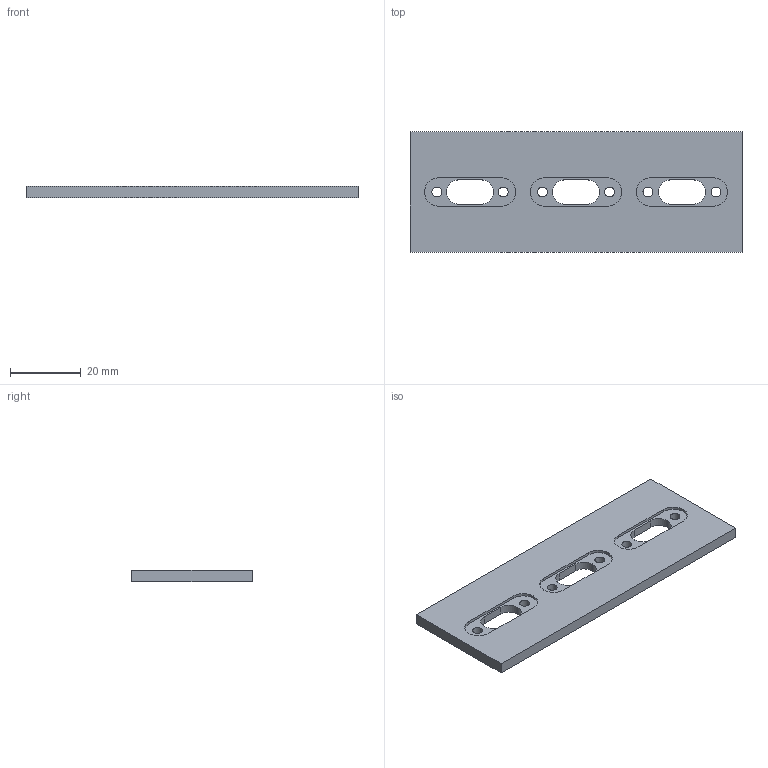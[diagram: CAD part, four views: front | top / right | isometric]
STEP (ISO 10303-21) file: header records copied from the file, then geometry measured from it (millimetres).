
FILE_DESCRIPTION(('Open CASCADE Model'),'2;1');
FILE_NAME('Open CASCADE Shape Model','2026-07-22T19:58:18',('Author'),( 'Open CASCADE'),'Open CASCADE STEP processor 7.9','Open CASCADE 7.9' ,'Unknown');
FILE_SCHEMA(('AUTOMOTIVE_DESIGN { 1 0 10303 214 1 1 1 1 }'));
Length unit declared in the file: millimetre
Products named in the file (1): Open CASCADE STEP translator 7.9 5
Bounding box: 94 x 34 x 3.2 mm (x, y, z)
Volume: 9097.6 mm3; surface area: 7171.5 mm2
Topology: 1 solids, 1 shells, 63 faces, 174 edges, 116 vertices
Faces by surface type: plane 33, cylinder 30
Full cylindrical faces by diameter (mm): 2.8 x6
Entity records: 4480 total; most frequent: CARTESIAN_POINT 990, DIRECTION 662, LINE 402, VECTOR 402, ORIENTED_EDGE 348, PCURVE 348, DEFINITIONAL_REPRESENTATION 348, EDGE_CURVE 174
